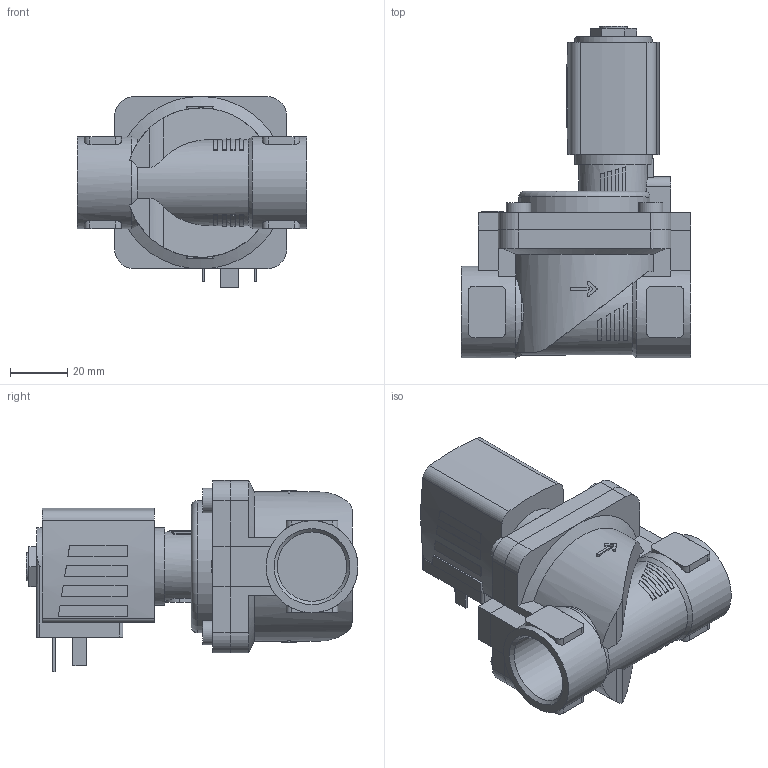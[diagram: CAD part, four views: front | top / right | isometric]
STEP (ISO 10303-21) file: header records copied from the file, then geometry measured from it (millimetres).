
FILE_DESCRIPTION(/* description */ ('STEP AP214'),/* implementation_level */ '2;1');
FILE_NAME(/* name */ '6281-264512-2_2-Way_Solenoid_Valve__Servo-assisted__General_Purpose',/* time_stamp */ '2024-05-20T14:09:39+02:00',/* author */ ('License CC BY-ND 4.0'),/* organization */ ('CADENAS'),/* preprocessor_version */ 'ST-DEVELOPER v19.3',/* originating_system */ 'PARTsolutions',/* authorisation */ ' ');
FILE_SCHEMA (('AUTOMOTIVE_DESIGN {1 0 10303 214 3 1 1}'));
Length unit declared in the file: millimetre
Products named in the file (4): 6281-264512-2/2-Way Solenoid Valve, Servo-assisted, General Purpose; 5281ev200MS2/2-Wege-Magnetventil mit Servomembran-Deckel   ; 6213-20G3/4MS-Gehaeuse-; AC10ex-5NA38-Plan-Coil
Assembly tree (3 placements, depth 2):
  6281-264512-2/2-Way Solenoid Valve, Servo-assisted, General Purpose
    5281ev200MS2/2-Wege-Magnetventil mit Servomembran-Deckel   
    6213-20G3/4MS-Gehaeuse-
    AC10ex-5NA38-Plan-Coil
Bounding box: 80 x 115.5 x 66.5 mm (x, y, z)
Volume: 196945.3 mm3; surface area: 42206.1 mm2
Topology: 3 solids, 3 shells, 332 faces, 845 edges, 558 vertices
Faces by surface type: plane 229, cylinder 87, cone 15, torus 1
Full cylindrical faces by diameter (mm): 2.013 x1, 8.5 x4, 9.74 x1, 24.117 x2, 27 x1, 32 x1
Entity records: 11296 total; most frequent: CARTESIAN_POINT 1979, DIRECTION 1682, ORIENTED_EDGE 1650, EDGE_CURVE 825, AXIS2_PLACEMENT_3D 590, VERTEX_POINT 551, LINE 502, VECTOR 502
